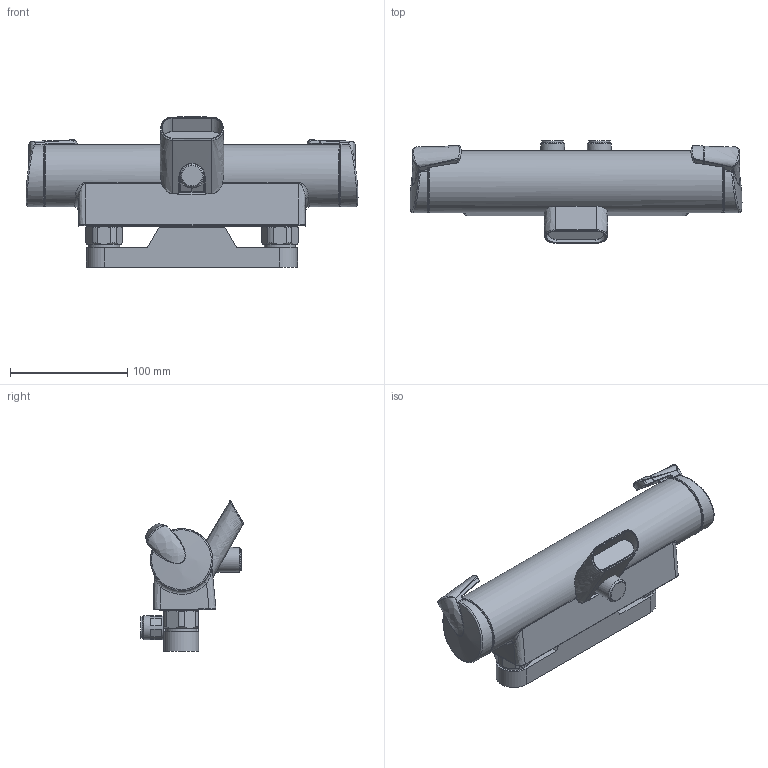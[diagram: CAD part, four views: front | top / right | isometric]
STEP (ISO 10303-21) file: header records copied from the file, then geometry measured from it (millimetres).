
FILE_DESCRIPTION (( 'STEP AP203' ), '1' );
FILE_NAME ('7155.STEP', '2017-03-09T05:58:50', ( '' ), ( '' ), 'SwSTEP 2.0', 'SolidWorks 2016', '' );
FILE_SCHEMA (( 'CONFIG_CONTROL_DESIGN' ));
Length unit declared in the file: millimetre
Products named in the file (1): 7155
Bounding box: 283.13 x 87.51 x 128.17 mm (x, y, z)
Surface area: 108453.7 mm2 (no closed solid volume)
Topology: 0 solids, 7 shells, 456 faces, 1108 edges, 678 vertices
Faces by surface type: bspline 190, plane 119, cylinder 93, cone 30, torus 18, sphere 6
Full cylindrical faces by diameter (mm): 18.3 x2, 20.5 x2, 21.05 x1, 26 x2, 26.441 x2, 47.946 x1, 53 x1
Entity records: 26247 total; most frequent: CARTESIAN_POINT 17330, ORIENTED_EDGE 2128, DIRECTION 1380, EDGE_CURVE 1065, VERTEX_POINT 664, AXIS2_PLACEMENT_3D 566, EDGE_LOOP 507, FACE_OUTER_BOUND 471
